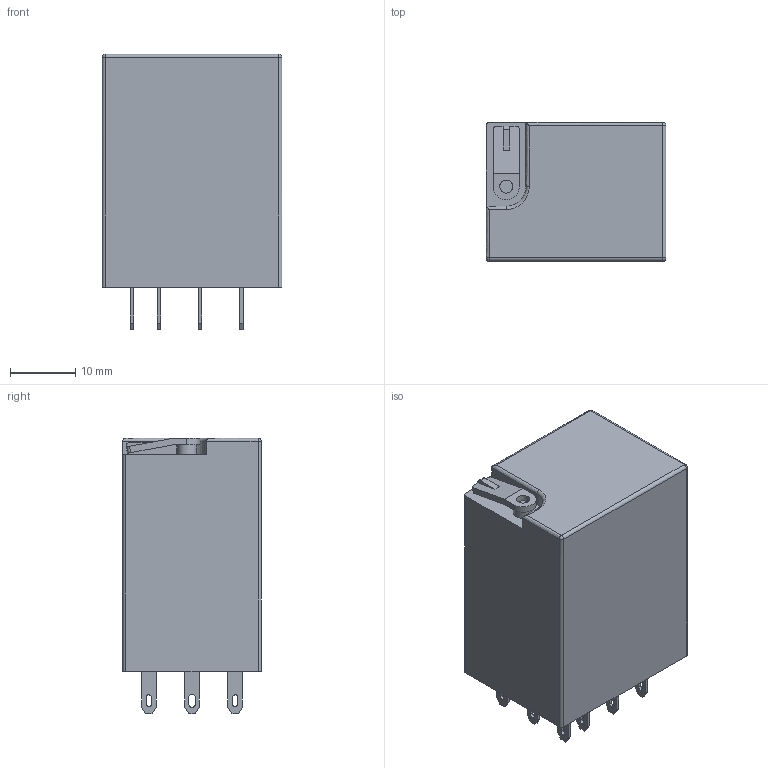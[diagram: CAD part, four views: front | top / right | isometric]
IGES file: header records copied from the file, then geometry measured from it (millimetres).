
Global section: file name: M3; native system: Autodesk Inventor 2020; preprocessor: unknown; organization: Mors Smitt; date: 20210603.150123; units: millimetre
Bounding box: 27.5 x 21.2 x 42.1 mm (x, y, z)
Volume: 20670.7 mm3; surface area: 5065.1 mm2
Topology: 1 solids, 1 shells, 162 faces, 432 edges, 283 vertices
Faces by surface type: bspline 162
